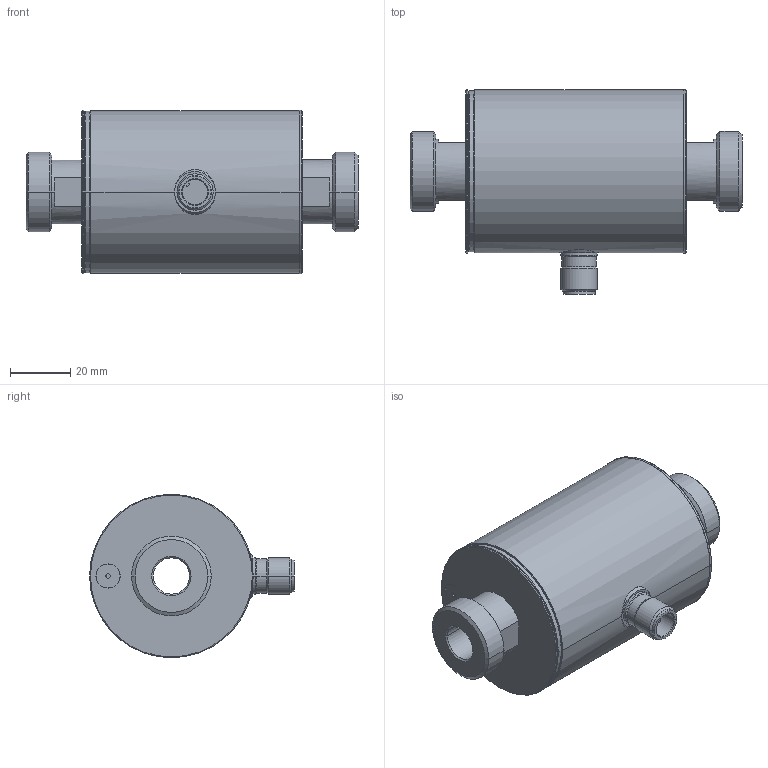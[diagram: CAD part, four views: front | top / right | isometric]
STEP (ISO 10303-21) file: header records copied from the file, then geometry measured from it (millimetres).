
FILE_DESCRIPTION( ( '' ), '1' );
FILE_NAME( '//expscmdclustefs.cadenas.external/client_exchange/iodir/jobs/output/wkb39663197_no0/STEP/sm7050_2_03_56fa68aab0d912ba39a93ed9979b71de.stp', '2011-12-01T09:26:51', ( '' ), ( '' ), ' ', ' ', ' ' );
FILE_SCHEMA( ( 'CONFIG_CONTROL_DESIGN' ) );
Length unit declared in the file: millimetre
Products named in the file (1): 1
Bounding box: 110 x 67.85 x 54.2 mm (x, y, z)
Volume: 43371.9 mm3; surface area: 37642.1 mm2
Topology: 1 solids, 1 shells, 135 faces, 294 edges, 181 vertices
Faces by surface type: cylinder 55, cone 38, plane 38, torus 4
Entity records: 3797 total; most frequent: DIRECTION 727, CARTESIAN_POINT 667, ORIENTED_EDGE 580, AXIS2_PLACEMENT_3D 305, EDGE_CURVE 290, VERTEX_POINT 181, CIRCLE 169, EDGE_LOOP 161
